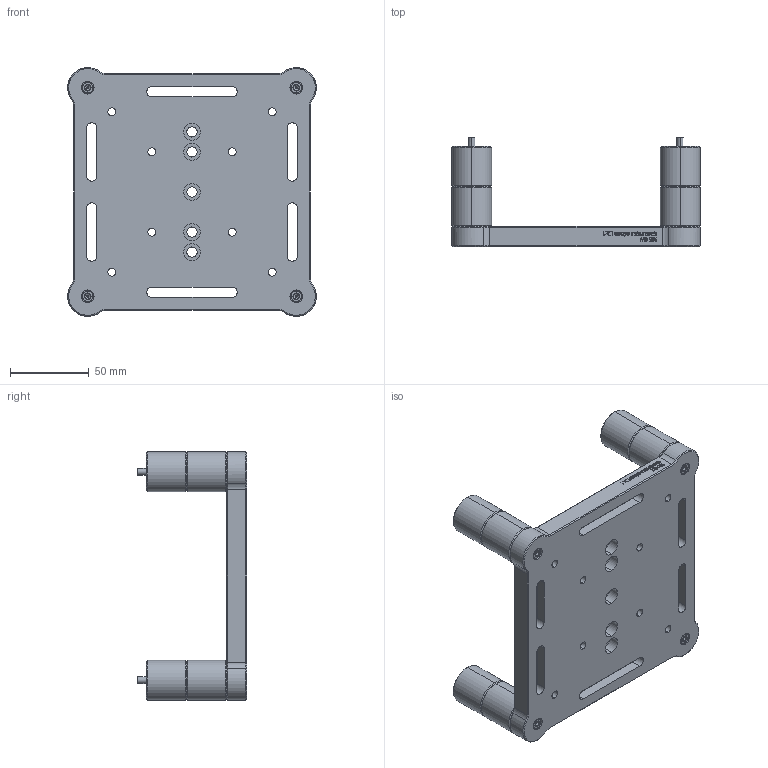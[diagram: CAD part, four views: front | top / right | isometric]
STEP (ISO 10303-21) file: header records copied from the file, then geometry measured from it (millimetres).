
FILE_DESCRIPTION (( 'STEP AP214' ), '1' );
FILE_NAME ('286-MKIT, post1.STEP', '2024-03-06T21:12:31', ( '' ), ( '' ), 'SwSTEP 2.0', 'SolidWorks 2021', '' );
FILE_SCHEMA (( 'AUTOMOTIVE_DESIGN' ));
Length unit declared in the file: inch
Products named in the file (1): 286-MKIT, post1
Bounding box: 157.48 x 69.34 x 157.48 mm (x, y, z)
Volume: 357014.4 mm3; surface area: 78047.6 mm2
Topology: 1 solids, 1 shells, 2048 faces, 5323 edges, 3466 vertices
Faces by surface type: plane 1010, bspline 760, cone 156, cylinder 122
Entity records: 103365 total; most frequent: CARTESIAN_POINT 51710, ORIENTED_EDGE 10630, DIRECTION 6761, EDGE_CURVE 5315, VERTEX_POINT 3466, LINE 3263, VECTOR 3263, EDGE_LOOP 2283
